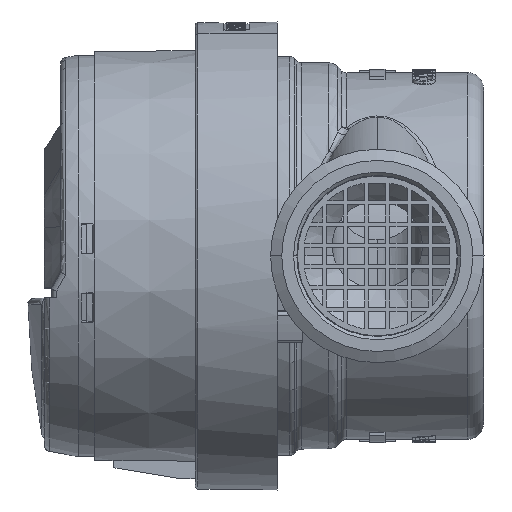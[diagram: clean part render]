
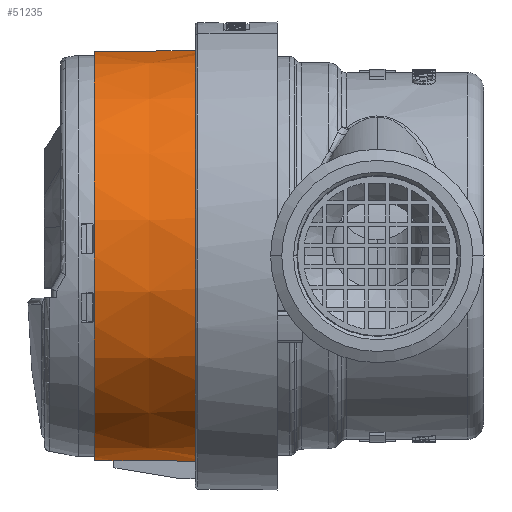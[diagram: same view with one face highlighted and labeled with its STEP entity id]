
A CAD part, left-side view. The second image highlights one B-rep face of the part: STEP entity #51235.
In plain terms, the highlighted conical face has half-angle 0.504 degrees and reference radius 31.9 mm.
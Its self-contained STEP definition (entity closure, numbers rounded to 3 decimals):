
#377 = DIRECTION ( 'NONE',  ( 0., 0., 1. ) ) ;
#1969 = CARTESIAN_POINT ( 'NONE',  ( -1., 57.4, -31.761 ) ) ;
#2890 = EDGE_CURVE ( 'NONE', #9832, #30554, #42554, .T. ) ;
#3694 = CARTESIAN_POINT ( 'NONE',  ( -1., 50.853, -31.819 ) ) ;
#3872 = DIRECTION ( 'NONE',  ( 0., 0., 1. ) ) ;
#5809 = EDGE_CURVE ( 'NONE', #46106, #45767, #13637, .T. ) ;
#6634 = VERTEX_POINT ( 'NONE', #9714 ) ;
#6798 = DIRECTION ( 'NONE',  ( 0., 0., 1. ) ) ;
#6965 = CARTESIAN_POINT ( 'NONE',  ( -1., 55.218, -31.78 ) ) ;
#7441 = CARTESIAN_POINT ( 'NONE',  ( 0., 43.374, 31.9 ) ) ;
#8120 = CARTESIAN_POINT ( 'NONE',  ( -1., 53.035, -31.799 ) ) ;
#8152 = ORIENTED_EDGE ( 'NONE', *, *, #2890, .T. ) ;
#9061 = VERTEX_POINT ( 'NONE', #7441 ) ;
#9179 = DIRECTION ( 'NONE',  ( 0., -1., 0. ) ) ;
#9714 = CARTESIAN_POINT ( 'NONE',  ( -1., 43.374, -31.884 ) ) ;
#9832 = VERTEX_POINT ( 'NONE', #49785 ) ;
#11043 = VECTOR ( 'NONE', #33514, 1000. ) ;
#11869 = EDGE_CURVE ( 'NONE', #9832, #9061, #54585, .T. ) ;
#13513 = ORIENTED_EDGE ( 'NONE', *, *, #34165, .F. ) ;
#13637 = CIRCLE ( 'NONE', #46510, 31.777 ) ;
#13737 = CARTESIAN_POINT ( 'NONE',  ( 0., 43.374, 31.9 ) ) ;
#15259 = VECTOR ( 'NONE', #19321, 1000. ) ;
#15563 = LINE ( 'NONE', #42258, #11043 ) ;
#16072 = CARTESIAN_POINT ( 'NONE',  ( -1., 48.52, -31.839 ) ) ;
#16916 = EDGE_LOOP ( 'NONE', ( #8152, #31310, #57944, #39997, #13513, #54780 ) ) ;
#17264 = AXIS2_PLACEMENT_3D ( 'NONE', #40634, #9179, #377 ) ;
#19321 = DIRECTION ( 'NONE',  ( 0., -1., 0.009 ) ) ;
#21701 = CARTESIAN_POINT ( 'NONE',  ( -1., 43.534, -31.883 ) ) ;
#22069 = B_SPLINE_CURVE_WITH_KNOTS ( 'NONE', 3,
 ( #1969, #6965, #8120, #3694, #16072, #43988, #30543, #47261, #21701, #39304 ),
 .UNSPECIFIED., .F., .F.,
 ( 4, 3, 3, 4 ),
 ( -0.007, 0., 0.007, 0.007 ),
 .UNSPECIFIED. ) ;
#22466 = FACE_OUTER_BOUND ( 'NONE', #16916, .T. ) ;
#25760 = CARTESIAN_POINT ( 'NONE',  ( -1., 57.4, -31.761 ) ) ;
#27387 = DIRECTION ( 'NONE',  ( 0., -1., 0. ) ) ;
#30543 = CARTESIAN_POINT ( 'NONE',  ( -1., 43.854, -31.88 ) ) ;
#30554 = VERTEX_POINT ( 'NONE', #49097 ) ;
#31310 = ORIENTED_EDGE ( 'NONE', *, *, #58125, .T. ) ;
#33514 = DIRECTION ( 'NONE',  ( 0., -1., -0.009 ) ) ;
#34165 = EDGE_CURVE ( 'NONE', #9061, #6634, #47300, .T. ) ;
#34320 = EDGE_CURVE ( 'NONE', #46106, #6634, #22069, .T. ) ;
#36973 = AXIS2_PLACEMENT_3D ( 'NONE', #42659, #38871, #6798 ) ;
#38871 = DIRECTION ( 'NONE',  ( 0., -1., 0. ) ) ;
#39304 = CARTESIAN_POINT ( 'NONE',  ( -1., 43.374, -31.884 ) ) ;
#39997 = ORIENTED_EDGE ( 'NONE', *, *, #34320, .T. ) ;
#40634 = CARTESIAN_POINT ( 'NONE',  ( 0., 60.45, 0. ) ) ;
#41338 = CARTESIAN_POINT ( 'NONE',  ( 0., 57.4, -31.777 ) ) ;
#42258 = CARTESIAN_POINT ( 'NONE',  ( 0., 43.374, -31.9 ) ) ;
#42554 = CIRCLE ( 'NONE', #17264, 31.75 ) ;
#42659 = CARTESIAN_POINT ( 'NONE',  ( 0., 43.374, 0. ) ) ;
#43988 = CARTESIAN_POINT ( 'NONE',  ( -1., 46.187, -31.86 ) ) ;
#45767 = VERTEX_POINT ( 'NONE', #41338 ) ;
#46106 = VERTEX_POINT ( 'NONE', #25760 ) ;
#46510 = AXIS2_PLACEMENT_3D ( 'NONE', #53593, #27387, #49162 ) ;
#47261 = CARTESIAN_POINT ( 'NONE',  ( -1., 43.694, -31.882 ) ) ;
#47300 = CIRCLE ( 'NONE', #36973, 31.9 ) ;
#49097 = CARTESIAN_POINT ( 'NONE',  ( 0., 60.45, -31.75 ) ) ;
#49162 = DIRECTION ( 'NONE',  ( 0., 0., -1. ) ) ;
#49785 = CARTESIAN_POINT ( 'NONE',  ( 0., 60.45, 31.75 ) ) ;
#51235 = ADVANCED_FACE ( 'NONE', ( #22466 ), #57168, .T. ) ;
#53053 = DIRECTION ( 'NONE',  ( 0., -1., 0. ) ) ;
#53448 = AXIS2_PLACEMENT_3D ( 'NONE', #57744, #53053, #3872 ) ;
#53593 = CARTESIAN_POINT ( 'NONE',  ( 0., 57.4, 0. ) ) ;
#54585 = LINE ( 'NONE', #13737, #15259 ) ;
#54780 = ORIENTED_EDGE ( 'NONE', *, *, #11869, .F. ) ;
#57168 = CONICAL_SURFACE ( 'NONE', #53448, 31.9, 0.009 ) ;
#57744 = CARTESIAN_POINT ( 'NONE',  ( 0., 43.374, 0. ) ) ;
#57944 = ORIENTED_EDGE ( 'NONE', *, *, #5809, .F. ) ;
#58125 = EDGE_CURVE ( 'NONE', #30554, #45767, #15563, .T. ) ;
